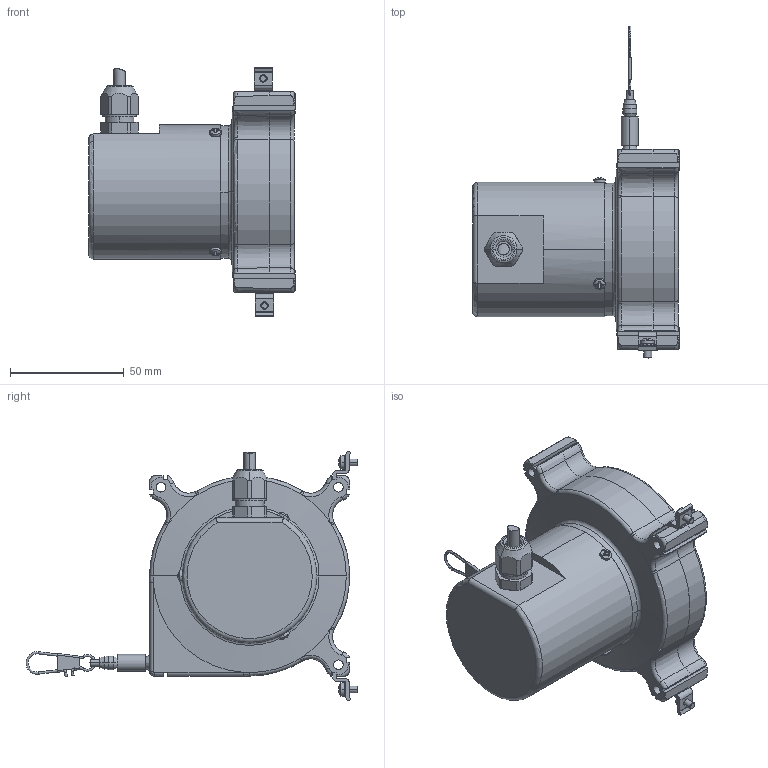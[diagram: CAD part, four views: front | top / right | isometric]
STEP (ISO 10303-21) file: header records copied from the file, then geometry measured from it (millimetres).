
FILE_DESCRIPTION((''),'2;1');
FILE_NAME('WPS-5000-MK88-CR-P_SW0008','2019-03-26T',('15000597'),(''),'PRO/ENGINEER BY PARAMETRIC TECHNOLOGY CORPORATION, 2015200','PRO/ENGINEER BY PARAMETRIC TECHNOLOGY CORPORATION, 2015200','');
FILE_SCHEMA(('AUTOMOTIVE_DESIGN { 1 0 10303 214 1 1 1 1 }'));
Products named in the file (1): WPS-5000-MK88-CR-P_SW0008
Bounding box: 90.7 x 145.89 x 109.8 mm (x, y, z)
Volume: 75873.7 mm3; surface area: 74630.7 mm2
Topology: 2 solids, 2 shells, 1867 faces, 5223 edges, 3416 vertices
Faces by surface type: plane 1242, cylinder 257, extrusion 195, torus 77, cone 56, sphere 16, bspline 16, revolution 8
Entity records: 87992 total; most frequent: CARTESIAN_POINT 20434, ORIENTED_EDGE 10442, DIRECTION 8700, EDGE_CURVE 5221, VECTOR 3428, VERTEX_POINT 3416, LINE 3233, FILL_AREA_STYLE_COLOUR 3188
